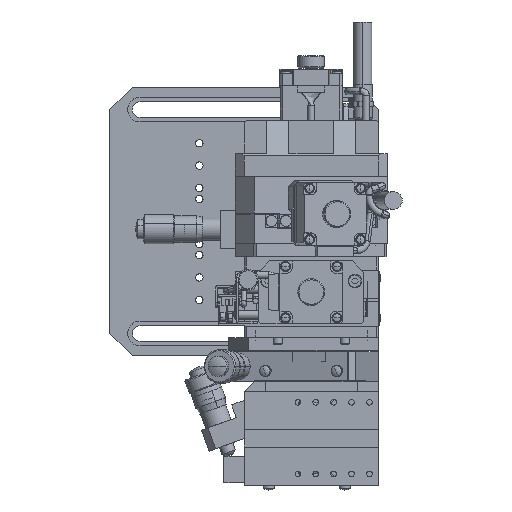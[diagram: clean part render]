
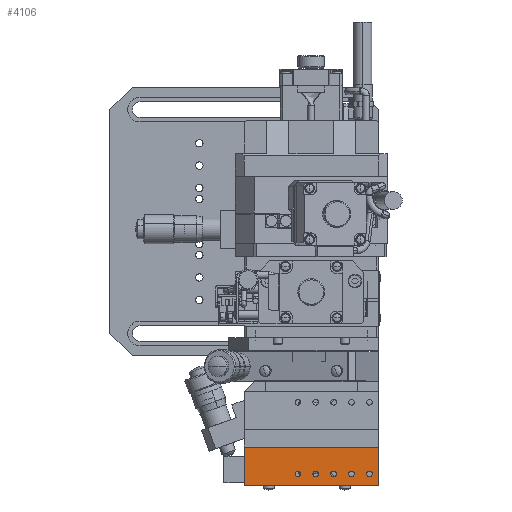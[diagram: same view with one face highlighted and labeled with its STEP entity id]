
A CAD part, top view. The second image highlights one B-rep face of the part: STEP entity #4106.
In plain terms, the highlighted planar face has unit normal (0, 0, 1).
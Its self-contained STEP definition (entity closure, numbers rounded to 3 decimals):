
#4106=ADVANCED_FACE('',(#10824,#10825,#10826,#10827,#10828,#10829),#10830,.T.);
#10824=FACE_OUTER_BOUND('',#19168,.T.);
#10825=FACE_BOUND('',#19169,.T.);
#10826=FACE_BOUND('',#19170,.T.);
#10827=FACE_BOUND('',#19171,.T.);
#10828=FACE_BOUND('',#19172,.T.);
#10829=FACE_BOUND('',#19173,.T.);
#10830=PLANE('',#19174);
#19168=EDGE_LOOP('',(#42957,#42958,#42959,#42960));
#19169=EDGE_LOOP('',(#42961,#42962,#42963));
#19170=EDGE_LOOP('',(#42964,#42965,#42966));
#19171=EDGE_LOOP('',(#42967,#42968,#42969));
#19172=EDGE_LOOP('',(#42970,#42971,#42972));
#19173=EDGE_LOOP('',(#42973,#42974,#42975));
#19174=AXIS2_PLACEMENT_3D('',#42976,#42977,#42978);
#42957=ORIENTED_EDGE('',*,*,#57613,.F.);
#42958=ORIENTED_EDGE('',*,*,#57609,.F.);
#42959=ORIENTED_EDGE('',*,*,#57614,.F.);
#42960=ORIENTED_EDGE('',*,*,#57615,.T.);
#42961=ORIENTED_EDGE('',*,*,#57616,.F.);
#42962=ORIENTED_EDGE('',*,*,#57617,.F.);
#42963=ORIENTED_EDGE('',*,*,#57555,.F.);
#42964=ORIENTED_EDGE('',*,*,#57618,.F.);
#42965=ORIENTED_EDGE('',*,*,#57619,.F.);
#42966=ORIENTED_EDGE('',*,*,#57585,.F.);
#42967=ORIENTED_EDGE('',*,*,#57620,.F.);
#42968=ORIENTED_EDGE('',*,*,#57621,.F.);
#42969=ORIENTED_EDGE('',*,*,#57591,.F.);
#42970=ORIENTED_EDGE('',*,*,#57622,.F.);
#42971=ORIENTED_EDGE('',*,*,#57623,.F.);
#42972=ORIENTED_EDGE('',*,*,#57596,.F.);
#42973=ORIENTED_EDGE('',*,*,#57624,.F.);
#42974=ORIENTED_EDGE('',*,*,#57625,.F.);
#42975=ORIENTED_EDGE('',*,*,#57571,.F.);
#42976=CARTESIAN_POINT('',(-50.,-97.,119.));
#42977=DIRECTION('',(0.,0.,1.0));
#42978=DIRECTION('',(1.0,0.,0.));
#57555=EDGE_CURVE('',#71612,#71615,#71616,.T.);
#57571=EDGE_CURVE('',#71644,#71647,#71648,.T.);
#57585=EDGE_CURVE('',#71671,#71674,#71675,.T.);
#57591=EDGE_CURVE('',#71683,#71686,#71687,.T.);
#57596=EDGE_CURVE('',#71693,#71696,#71697,.T.);
#57609=EDGE_CURVE('',#71721,#71722,#71723,.T.);
#57613=EDGE_CURVE('',#71722,#71729,#71730,.T.);
#57614=EDGE_CURVE('',#71731,#71721,#71732,.T.);
#57615=EDGE_CURVE('',#71731,#71729,#71733,.F.);
#57616=EDGE_CURVE('',#71734,#71612,#71735,.T.);
#57617=EDGE_CURVE('',#71615,#71734,#71736,.T.);
#57618=EDGE_CURVE('',#71737,#71671,#71738,.T.);
#57619=EDGE_CURVE('',#71674,#71737,#71739,.T.);
#57620=EDGE_CURVE('',#71740,#71683,#71741,.T.);
#57621=EDGE_CURVE('',#71686,#71740,#71742,.T.);
#57622=EDGE_CURVE('',#71743,#71693,#71744,.T.);
#57623=EDGE_CURVE('',#71696,#71743,#71745,.T.);
#57624=EDGE_CURVE('',#71746,#71644,#71747,.T.);
#57625=EDGE_CURVE('',#71647,#71746,#71748,.T.);
#71612=VERTEX_POINT('',#92220);
#71615=VERTEX_POINT('',#92224);
#71616=CIRCLE('',#92225,1.25);
#71644=VERTEX_POINT('',#92260);
#71647=VERTEX_POINT('',#92264);
#71648=CIRCLE('',#92265,1.25);
#71671=VERTEX_POINT('',#92298);
#71674=VERTEX_POINT('',#92302);
#71675=CIRCLE('',#92303,1.25);
#71683=VERTEX_POINT('',#92314);
#71686=VERTEX_POINT('',#92318);
#71687=CIRCLE('',#92319,1.25);
#71693=VERTEX_POINT('',#92326);
#71696=VERTEX_POINT('',#92330);
#71697=CIRCLE('',#92331,1.25);
#71721=VERTEX_POINT('',#92362);
#71722=VERTEX_POINT('',#92363);
#71723=LINE('',#92364,#92365);
#71729=VERTEX_POINT('',#92374);
#71730=LINE('',#92375,#92376);
#71731=VERTEX_POINT('',#92377);
#71732=LINE('',#92378,#92379);
#71733=LINE('',#92380,#92381);
#71734=VERTEX_POINT('',#92382);
#71735=CIRCLE('',#92383,1.25);
#71736=CIRCLE('',#92384,1.25);
#71737=VERTEX_POINT('',#92385);
#71738=CIRCLE('',#92386,1.25);
#71739=CIRCLE('',#92387,1.25);
#71740=VERTEX_POINT('',#92388);
#71741=CIRCLE('',#92389,1.25);
#71742=CIRCLE('',#92390,1.25);
#71743=VERTEX_POINT('',#92391);
#71744=CIRCLE('',#92392,1.25);
#71745=CIRCLE('',#92393,1.25);
#71746=VERTEX_POINT('',#92394);
#71747=CIRCLE('',#92395,1.25);
#71748=CIRCLE('',#92396,1.25);
#92220=CARTESIAN_POINT('',(-54.75,-113.,119.));
#92224=CARTESIAN_POINT('',(-57.25,-113.,119.));
#92225=AXIS2_PLACEMENT_3D('',#110598,#110599,#110600);
#92260=CARTESIAN_POINT('',(-22.75,-113.,119.));
#92264=CARTESIAN_POINT('',(-25.25,-113.,119.));
#92265=AXIS2_PLACEMENT_3D('',#110630,#110631,#110632);
#92298=CARTESIAN_POINT('',(-46.75,-113.,119.));
#92302=CARTESIAN_POINT('',(-49.25,-113.,119.));
#92303=AXIS2_PLACEMENT_3D('',#110657,#110658,#110659);
#92314=CARTESIAN_POINT('',(-38.75,-113.,119.));
#92318=CARTESIAN_POINT('',(-41.25,-113.,119.));
#92319=AXIS2_PLACEMENT_3D('',#110667,#110668,#110669);
#92326=CARTESIAN_POINT('',(-30.75,-113.,119.));
#92330=CARTESIAN_POINT('',(-33.25,-113.,119.));
#92331=AXIS2_PLACEMENT_3D('',#110678,#110679,#110680);
#92362=CARTESIAN_POINT('',(-20.,-118.,119.));
#92363=CARTESIAN_POINT('',(-80.,-118.,119.));
#92364=CARTESIAN_POINT('',(-50.,-118.,119.));
#92365=VECTOR('',#110703,1000.0);
#92374=CARTESIAN_POINT('',(-80.,-101.,119.));
#92375=CARTESIAN_POINT('',(-80.,-97.,119.));
#92376=VECTOR('',#110707,1000.0);
#92377=CARTESIAN_POINT('',(-20.,-101.,119.));
#92378=CARTESIAN_POINT('',(-20.,-97.,119.));
#92379=VECTOR('',#110708,1000.0);
#92380=CARTESIAN_POINT('',(-50.,-101.,119.));
#92381=VECTOR('',#110709,1000.0);
#92382=CARTESIAN_POINT('',(-56.,-114.25,119.));
#92383=AXIS2_PLACEMENT_3D('',#110710,#110711,#110712);
#92384=AXIS2_PLACEMENT_3D('',#110713,#110714,#110715);
#92385=CARTESIAN_POINT('',(-48.,-114.25,119.));
#92386=AXIS2_PLACEMENT_3D('',#110716,#110717,#110718);
#92387=AXIS2_PLACEMENT_3D('',#110719,#110720,#110721);
#92388=CARTESIAN_POINT('',(-40.,-114.25,119.));
#92389=AXIS2_PLACEMENT_3D('',#110722,#110723,#110724);
#92390=AXIS2_PLACEMENT_3D('',#110725,#110726,#110727);
#92391=CARTESIAN_POINT('',(-32.,-114.25,119.));
#92392=AXIS2_PLACEMENT_3D('',#110728,#110729,#110730);
#92393=AXIS2_PLACEMENT_3D('',#110731,#110732,#110733);
#92394=CARTESIAN_POINT('',(-24.,-114.25,119.));
#92395=AXIS2_PLACEMENT_3D('',#110734,#110735,#110736);
#92396=AXIS2_PLACEMENT_3D('',#110737,#110738,#110739);
#110598=CARTESIAN_POINT('',(-56.,-113.,119.));
#110599=DIRECTION('',(0.,0.,1.0));
#110600=DIRECTION('',(0.0,-1.0,0.));
#110630=CARTESIAN_POINT('',(-24.,-113.,119.));
#110631=DIRECTION('',(0.,0.,1.0));
#110632=DIRECTION('',(0.0,-1.0,0.));
#110657=CARTESIAN_POINT('',(-48.,-113.,119.));
#110658=DIRECTION('',(0.,0.,1.0));
#110659=DIRECTION('',(0.0,-1.0,0.));
#110667=CARTESIAN_POINT('',(-40.,-113.,119.));
#110668=DIRECTION('',(0.,0.,1.0));
#110669=DIRECTION('',(0.0,-1.0,0.));
#110678=CARTESIAN_POINT('',(-32.,-113.,119.));
#110679=DIRECTION('',(0.,0.,1.0));
#110680=DIRECTION('',(0.0,-1.0,0.));
#110703=DIRECTION('',(-1.0,0.,0.));
#110707=DIRECTION('',(0.,1.0,0.));
#110708=DIRECTION('',(0.,-1.0,0.));
#110709=DIRECTION('',(1.0,0.,0.));
#110710=CARTESIAN_POINT('',(-56.,-113.,119.));
#110711=DIRECTION('',(0.,0.,1.0));
#110712=DIRECTION('',(0.0,-1.0,0.));
#110713=CARTESIAN_POINT('',(-56.,-113.,119.));
#110714=DIRECTION('',(0.,0.,1.0));
#110715=DIRECTION('',(0.0,-1.0,0.));
#110716=CARTESIAN_POINT('',(-48.,-113.,119.));
#110717=DIRECTION('',(0.,0.,1.0));
#110718=DIRECTION('',(0.0,-1.0,0.));
#110719=CARTESIAN_POINT('',(-48.,-113.,119.));
#110720=DIRECTION('',(0.,0.,1.0));
#110721=DIRECTION('',(0.0,-1.0,0.));
#110722=CARTESIAN_POINT('',(-40.,-113.,119.));
#110723=DIRECTION('',(0.,0.,1.0));
#110724=DIRECTION('',(0.0,-1.0,0.));
#110725=CARTESIAN_POINT('',(-40.,-113.,119.));
#110726=DIRECTION('',(0.,0.,1.0));
#110727=DIRECTION('',(0.0,-1.0,0.));
#110728=CARTESIAN_POINT('',(-32.,-113.,119.));
#110729=DIRECTION('',(0.,0.,1.0));
#110730=DIRECTION('',(0.0,-1.0,0.));
#110731=CARTESIAN_POINT('',(-32.,-113.,119.));
#110732=DIRECTION('',(0.,0.,1.0));
#110733=DIRECTION('',(0.0,-1.0,0.));
#110734=CARTESIAN_POINT('',(-24.,-113.,119.));
#110735=DIRECTION('',(0.,0.,1.0));
#110736=DIRECTION('',(0.0,-1.0,0.));
#110737=CARTESIAN_POINT('',(-24.,-113.,119.));
#110738=DIRECTION('',(0.,0.,1.0));
#110739=DIRECTION('',(0.0,-1.0,0.));
